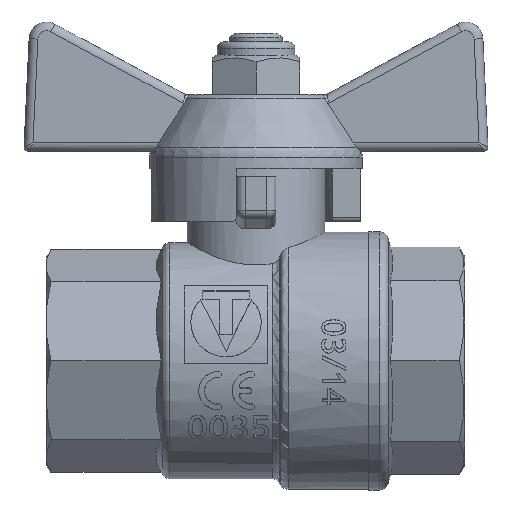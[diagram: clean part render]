
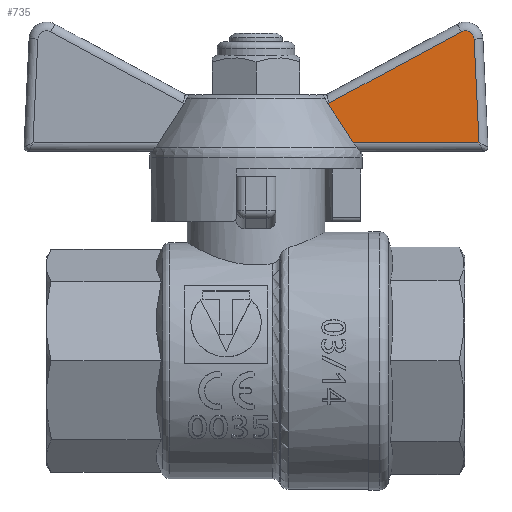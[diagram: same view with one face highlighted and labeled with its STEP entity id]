
A CAD part, front view. The second image highlights one B-rep face of the part: STEP entity #735.
In plain terms, the highlighted planar face has unit normal (0, -1, 0).
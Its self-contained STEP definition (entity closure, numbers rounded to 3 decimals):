
#679=CARTESIAN_POINT('',(13.85,-3.,29.215));
#680=DIRECTION('',(-0.,1.,0.));
#681=DIRECTION('',(1.,0.,-0.));
#682=AXIS2_PLACEMENT_3D('',#679,#680,#681);
#683=PLANE('',#682);
#684=CARTESIAN_POINT('',(22.171,-3.,29.393));
#685=VERTEX_POINT('',#684);
#686=CARTESIAN_POINT('',(37.274,-3.,37.548));
#687=VERTEX_POINT('',#686);
#688=CARTESIAN_POINT('',(22.171,-3.,29.393));
#689=DIRECTION('',(0.88,0.,0.475));
#690=VECTOR('',#689,17.164);
#691=LINE('',#688,#690);
#692=EDGE_CURVE('',#685,#687,#691,.T.);
#693=ORIENTED_EDGE('',*,*,#692,.F.);
#694=CARTESIAN_POINT('',(22.044,-3.,29.393));
#695=VERTEX_POINT('',#694);
#696=CARTESIAN_POINT('',(22.044,-3.,29.393));
#697=DIRECTION('',(1.,0.,0.));
#698=VECTOR('',#697,0.127);
#699=LINE('',#696,#698);
#700=EDGE_CURVE('',#695,#685,#699,.T.);
#701=ORIENTED_EDGE('',*,*,#700,.F.);
#702=CARTESIAN_POINT('',(24.947,-3.,24.893));
#703=VERTEX_POINT('',#702);
#704=CARTESIAN_POINT('',(22.044,-3.,29.393));
#705=CARTESIAN_POINT('',(23.297,-3.,27.481));
#706=CARTESIAN_POINT('',(24.947,-3.,24.893));
#707=(BOUNDED_CURVE()
B_SPLINE_CURVE(2,(#704,#705,#706),.UNSPECIFIED.,.F.,.F.)
B_SPLINE_CURVE_WITH_KNOTS((3,3),(0.099,0.631),.UNSPECIFIED.)
CURVE()
GEOMETRIC_REPRESENTATION_ITEM()
RATIONAL_B_SPLINE_CURVE((1.007,1.016,1.005))
REPRESENTATION_ITEM(''));
#708=EDGE_CURVE('',#695,#703,#707,.T.);
#709=ORIENTED_EDGE('',*,*,#708,.T.);
#710=CARTESIAN_POINT('',(39.302,-3.,24.893));
#711=VERTEX_POINT('',#710);
#712=CARTESIAN_POINT('',(39.302,-3.,24.893));
#713=DIRECTION('',(-1.,-0.,-0.));
#714=VECTOR('',#713,14.355);
#715=LINE('',#712,#714);
#716=EDGE_CURVE('',#711,#703,#715,.T.);
#717=ORIENTED_EDGE('',*,*,#716,.F.);
#718=CARTESIAN_POINT('',(38.748,-3.,36.715));
#719=VERTEX_POINT('',#718);
#720=CARTESIAN_POINT('',(38.748,-3.,36.715));
#721=DIRECTION('',(0.047,0.,-0.999));
#722=VECTOR('',#721,11.835);
#723=LINE('',#720,#722);
#724=EDGE_CURVE('',#719,#711,#723,.T.);
#725=ORIENTED_EDGE('',*,*,#724,.F.);
#726=CARTESIAN_POINT('',(37.749,-3.,36.668));
#727=DIRECTION('',(-0.,1.,-0.));
#728=DIRECTION('',(0.,0.,-1.));
#729=AXIS2_PLACEMENT_3D('',#726,#727,#728);
#730=CIRCLE('',#729,1.);
#731=EDGE_CURVE('',#687,#719,#730,.T.);
#732=ORIENTED_EDGE('',*,*,#731,.F.);
#733=EDGE_LOOP('',(#693,#701,#709,#717,#725,#732));
#734=FACE_BOUND('',#733,.T.);
#735=ADVANCED_FACE('',(#734),#683,.F.);
